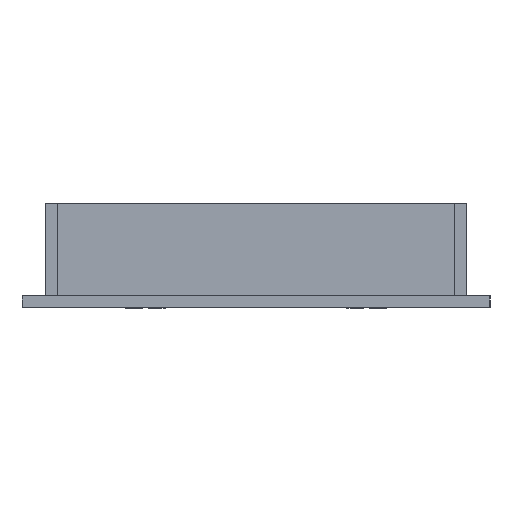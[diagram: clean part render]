
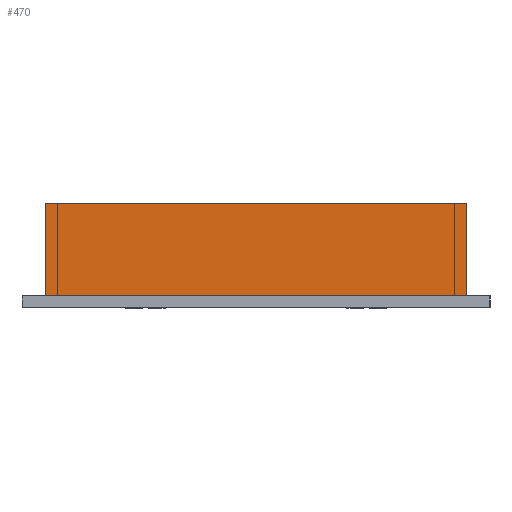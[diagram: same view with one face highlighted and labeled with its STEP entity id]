
A CAD part, left-side view. The second image highlights one B-rep face of the part: STEP entity #470.
In plain terms, the highlighted planar face has unit normal (-1, 0, 0).
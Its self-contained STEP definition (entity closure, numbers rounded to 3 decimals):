
#470=ADVANCED_FACE('',(#814),#5446,.T.);
#814=FACE_OUTER_BOUND('',#1256,.T.);
#1256=EDGE_LOOP('',(#2721,#2722,#2723,#2724));
#2721=ORIENTED_EDGE('',*,*,#3719,.T.);
#2722=ORIENTED_EDGE('',*,*,#3708,.T.);
#2723=ORIENTED_EDGE('',*,*,#3709,.F.);
#2724=ORIENTED_EDGE('',*,*,#3710,.F.);
#3708=EDGE_CURVE('',#5187,#5180,#4123,.T.);
#3709=EDGE_CURVE('',#5181,#5180,#4124,.T.);
#3710=EDGE_CURVE('',#5186,#5181,#4125,.T.);
#3719=EDGE_CURVE('',#5186,#5187,#4134,.T.);
#4123=B_SPLINE_CURVE_WITH_KNOTS('',1,(#14588,#14589),.UNSPECIFIED.,.F.,
 .F.,(2,2),(0.,25.),.UNSPECIFIED.);
#4124=B_SPLINE_CURVE_WITH_KNOTS('',1,(#14590,#14591),.UNSPECIFIED.,.F.,
 .F.,(2,2),(-3248.564,-3134.564),.UNSPECIFIED.);
#4125=B_SPLINE_CURVE_WITH_KNOTS('',1,(#14592,#14593),.UNSPECIFIED.,.F.,
 .F.,(2,2),(0.,25.),.UNSPECIFIED.);
#4134=B_SPLINE_CURVE_WITH_KNOTS('',1,(#14610,#14611),.UNSPECIFIED.,.F.,
 .F.,(2,2),(-3248.564,-3134.564),.UNSPECIFIED.);
#5180=VERTEX_POINT('',#14268);
#5181=VERTEX_POINT('',#14269);
#5186=VERTEX_POINT('',#14274);
#5187=VERTEX_POINT('',#14275);
#5446=PLANE('',#5925);
#5925=AXIS2_PLACEMENT_3D('',#14136,#6198,$);
#6198=DIRECTION('',(-1.,0.,0.));
#14136=CARTESIAN_POINT('',(6.5,-6.5,3.));
#14268=CARTESIAN_POINT('',(6.5,-120.5,28.));
#14269=CARTESIAN_POINT('',(6.5,-6.5,28.));
#14274=CARTESIAN_POINT('',(6.5,-6.5,3.));
#14275=CARTESIAN_POINT('',(6.5,-120.5,3.));
#14588=CARTESIAN_POINT('',(6.5,-120.5,3.));
#14589=CARTESIAN_POINT('',(6.5,-120.5,28.));
#14590=CARTESIAN_POINT('',(6.5,-6.5,28.));
#14591=CARTESIAN_POINT('',(6.5,-120.5,28.));
#14592=CARTESIAN_POINT('',(6.5,-6.5,3.));
#14593=CARTESIAN_POINT('',(6.5,-6.5,28.));
#14610=CARTESIAN_POINT('',(6.5,-6.5,3.));
#14611=CARTESIAN_POINT('',(6.5,-120.5,3.));
